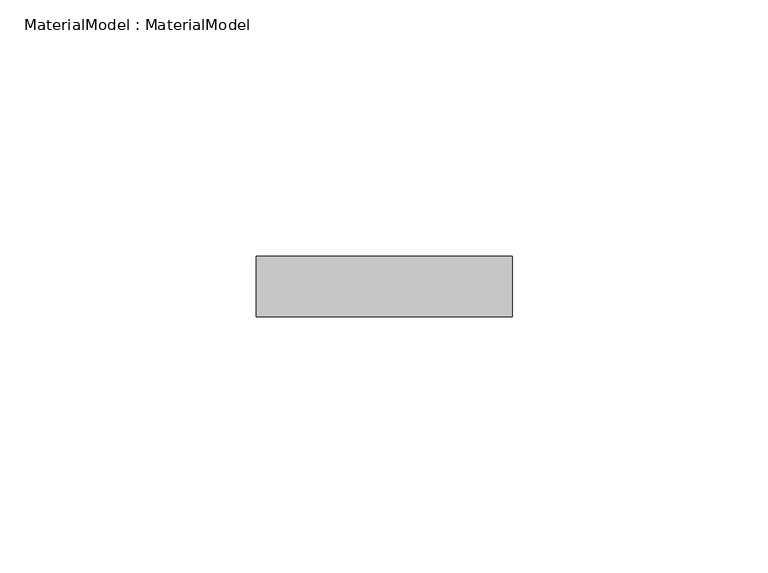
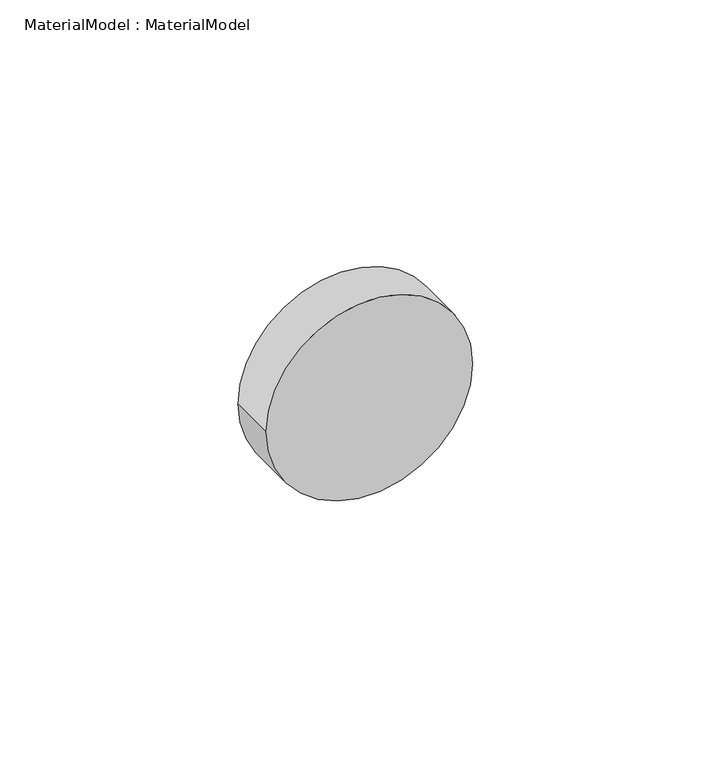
"""IFC4 building model written with IfcOpenShell, lengths in millimetres: proxy geometry, MaterialModel : MaterialModel."""

from ifc_helpers import new_model, si_unit, point, frame, frame_2d, origin, place, context, project, spatial, circle_curve, trimmed, segment, composite_curve, outline, extrude, source, transform, mapped, element, save


def materialmodel_materialmodel_d9ff14ed(model_context):
    return source(origin(), model_context, "Body", "SweptSolid", [
        extrude(outline(composite_curve([segment(trimmed(circle_curve(frame_2d((75.0, 0.0)), 25.0), [point((75.0, -25.0))], [point((75.0, 25.0))], False, "CARTESIAN"), True, "CONTINUOUS"), segment(trimmed(circle_curve(frame_2d((75.0, 0.0)), 25.0), [point((75.0, 25.0))], [point((75.0, -25.0))], False, "CARTESIAN"), True, "CONTINUOUS")], self_intersect=False)), frame((0.0, -11.8565782, 0.0), z_axis=(0.0, 1.0, 0.0), x_axis=(0.0, 0.0, 1.0)), (0.0, 0.0, 1.0), 11.8565782),
    ])


if __name__ == "__main__":
    model = new_model("IFC4")
    model_context = context("Model", 3, world=origin())
    ifc_project = project(units=[si_unit("LENGTHUNIT", "METRE", prefix="MILLI")], contexts=[model_context])
    site = spatial("IfcSite", under=ifc_project)
    building = spatial("IfcBuilding", under=site)
    placement = place(None, origin())
    materialmodel_materialmodel_shape = materialmodel_materialmodel_d9ff14ed(model_context)
    element("IfcBuildingElementProxy", 1, Name="MaterialModel : MaterialModel", ObjectType="MaterialModel : MaterialModel", at=placement, inside=building, context=model_context, shape_type="MappedRepresentation", body=[
        mapped(materialmodel_materialmodel_shape, transform((0.0, 0.0, 0.0), x_axis=(1.0, 0.0, 0.0), y_axis=(0.0, 1.0, 0.0), z_axis=(0.0, 0.0, 1.0))),
    ])
    save(model, "model.ifc")
